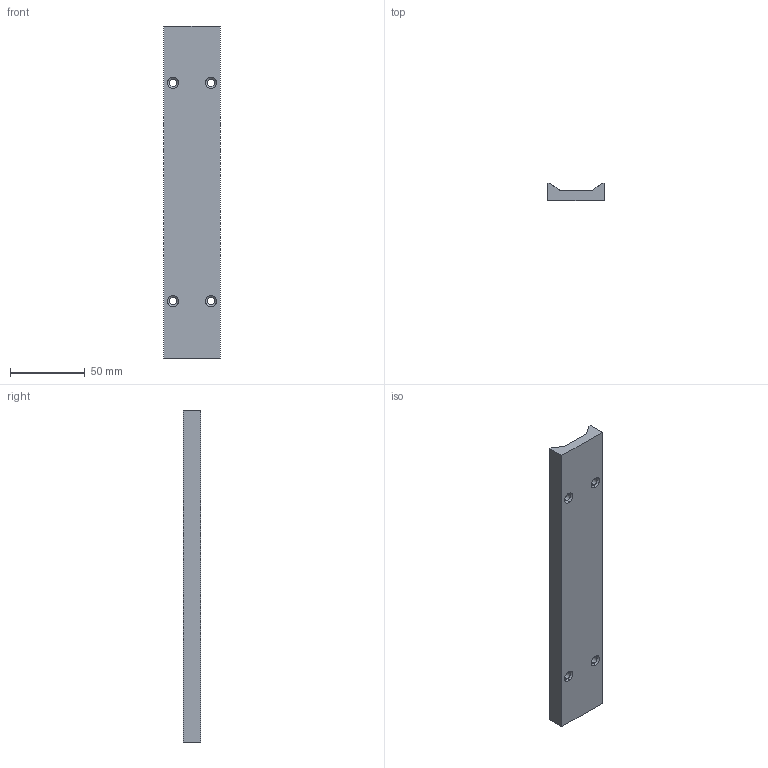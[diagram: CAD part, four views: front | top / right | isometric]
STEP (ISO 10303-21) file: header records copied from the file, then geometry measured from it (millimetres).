
FILE_DESCRIPTION (( 'STEP AP203' ), '1' );
FILE_NAME ('269-18-308.STEP', '2020-03-02T22:32:47', ( '' ), ( '' ), 'SwSTEP 2.0', 'SolidWorks 2017', '' );
FILE_SCHEMA (( 'CONFIG_CONTROL_DESIGN' ));
Length unit declared in the file: inch
Products named in the file (1): 269-18-308
Bounding box: 38.1 x 11.43 x 222.25 mm (x, y, z)
Volume: 64228.8 mm3; surface area: 23603.8 mm2
Topology: 1 solids, 1 shells, 26 faces, 76 edges, 48 vertices
Faces by surface type: plane 10, cone 8, cylinder 8
Entity records: 951 total; most frequent: CARTESIAN_POINT 187, ORIENTED_EDGE 152, DIRECTION 138, EDGE_CURVE 76, VERTEX_POINT 48, AXIS2_PLACEMENT_3D 47, VECTOR 44, LINE 44
